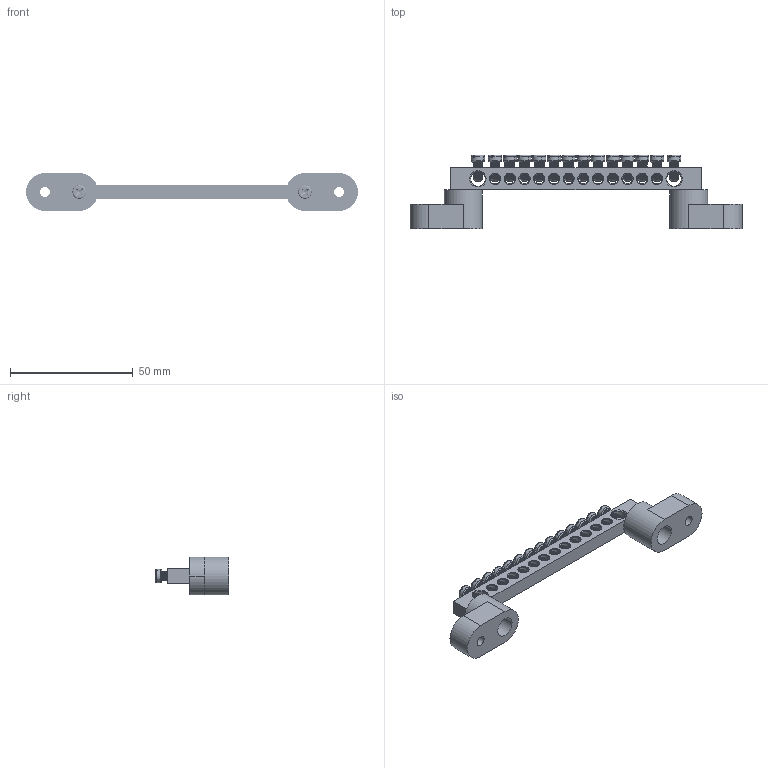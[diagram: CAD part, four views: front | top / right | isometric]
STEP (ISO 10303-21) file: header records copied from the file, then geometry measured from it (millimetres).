
FILE_DESCRIPTION (( 'STEP AP214' ), '1' );
FILE_NAME ('277886 OptiKit BB-T-N-S-14-6õ9-ñèíèé.STEP', '2020-02-06T12:31:54', ( '' ), ( '' ), 'SwSTEP 2.0', 'SolidWorks 2018', '' );
FILE_SCHEMA (( 'AUTOMOTIVE_DESIGN' ));
Length unit declared in the file: millimetre
Products named in the file (5): DIN èçîëÿòîð 2; Øèíà íóëåâàÿ ñ êðåïåæíûìè îòâåðñòèÿìè ïî êðàÿì 6õ9 14-2_1; Âèíò ì4; Øèíà 6õ9 14 2; 277886 OptiKit BB-T-N-S-14-6õ9-ñèíèé
Assembly tree (20 placements, depth 3):
  277886 OptiKit BB-T-N-S-14-6õ9-ñèíèé
    Øèíà íóëåâàÿ ñ êðåïåæíûìè îòâåðñòèÿìè ïî êðàÿì 6õ9 14-2_1
      Øèíà 6õ9 14 2
      Âèíò ì4  x14
    DIN èçîëÿòîð 2  x2
    Âèíò ì4  x2
Bounding box: 135.4 x 29.9 x 15.4 mm (x, y, z)
Volume: 14625.3 mm3; surface area: 12282.6 mm2
Topology: 19 solids, 19 shells, 1272 faces, 3528 edges, 2280 vertices
Faces by surface type: plane 450, cylinder 446, cone 200, torus 112, bspline 64
Entity records: 9679 total; most frequent: CARTESIAN_POINT 3983, DIRECTION 1080, ORIENTED_EDGE 1070, EDGE_CURVE 535, AXIS2_PLACEMENT_3D 432, VERTEX_POINT 336, EDGE_LOOP 273, VECTOR 216
